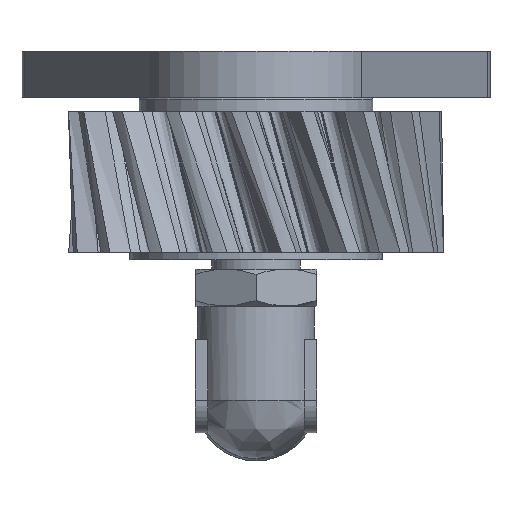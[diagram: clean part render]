
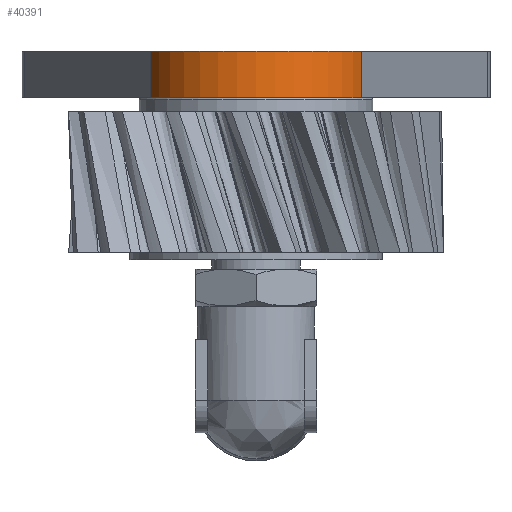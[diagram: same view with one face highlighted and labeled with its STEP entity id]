
A CAD part, front view. The second image highlights one B-rep face of the part: STEP entity #40391.
In plain terms, the highlighted cylindrical face has radius 12 mm (diameter 24 mm), a partial arc.
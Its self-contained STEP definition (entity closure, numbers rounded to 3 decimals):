
#1504 = CARTESIAN_POINT ( 'NONE',  ( 11.255, 7.837, 5. ) ) ;
#3376 = DIRECTION ( 'NONE',  ( 1., 0., 0. ) ) ;
#3908 = VERTEX_POINT ( 'NONE', #38230 ) ;
#4701 = EDGE_CURVE ( 'NONE', #54075, #27949, #7472, .T. ) ;
#7472 = CIRCLE ( 'NONE', #54466, 12. ) ;
#8814 = DIRECTION ( 'NONE',  ( 1., 0., 0. ) ) ;
#10522 = LINE ( 'NONE', #32728, #38012 ) ;
#11655 = ORIENTED_EDGE ( 'NONE', *, *, #17436, .F. ) ;
#11993 = CARTESIAN_POINT ( 'NONE',  ( 11.255, 7.837, 0. ) ) ;
#12648 = CARTESIAN_POINT ( 'NONE',  ( 0., 12., 5. ) ) ;
#15471 = CARTESIAN_POINT ( 'NONE',  ( -11.255, 7.837, 5. ) ) ;
#15681 = ORIENTED_EDGE ( 'NONE', *, *, #20637, .T. ) ;
#16073 = DIRECTION ( 'NONE',  ( 0., 0., -1. ) ) ;
#16270 = DIRECTION ( 'NONE',  ( 0., 0., 1. ) ) ;
#16973 = CARTESIAN_POINT ( 'NONE',  ( 0., 12., 5. ) ) ;
#17436 = EDGE_CURVE ( 'NONE', #27949, #22728, #18246, .T. ) ;
#18246 = LINE ( 'NONE', #55169, #37847 ) ;
#18727 = EDGE_LOOP ( 'NONE', ( #40551, #11655, #50447, #15681 ) ) ;
#19855 = AXIS2_PLACEMENT_3D ( 'NONE', #58039, #40653, #8814 ) ;
#20637 = EDGE_CURVE ( 'NONE', #54075, #3908, #10522, .T. ) ;
#22728 = VERTEX_POINT ( 'NONE', #11993 ) ;
#25972 = CYLINDRICAL_SURFACE ( 'NONE', #40509, 12. ) ;
#27838 = DIRECTION ( 'NONE',  ( 0., 0., -1. ) ) ;
#27949 = VERTEX_POINT ( 'NONE', #1504 ) ;
#32728 = CARTESIAN_POINT ( 'NONE',  ( -11.255, 7.837, 5. ) ) ;
#33291 = CIRCLE ( 'NONE', #19855, 12. ) ;
#37847 = VECTOR ( 'NONE', #27838, 1000. ) ;
#38012 = VECTOR ( 'NONE', #51080, 1000. ) ;
#38230 = CARTESIAN_POINT ( 'NONE',  ( -11.255, 7.837, 0. ) ) ;
#39818 = FACE_OUTER_BOUND ( 'NONE', #18727, .T. ) ;
#40391 = ADVANCED_FACE ( 'NONE', ( #39818 ), #25972, .T. ) ;
#40509 = AXIS2_PLACEMENT_3D ( 'NONE', #16973, #16073, #57801 ) ;
#40551 = ORIENTED_EDGE ( 'NONE', *, *, #58603, .T. ) ;
#40653 = DIRECTION ( 'NONE',  ( 0., 0., 1. ) ) ;
#50447 = ORIENTED_EDGE ( 'NONE', *, *, #4701, .F. ) ;
#51080 = DIRECTION ( 'NONE',  ( 0., 0., -1. ) ) ;
#54075 = VERTEX_POINT ( 'NONE', #15471 ) ;
#54466 = AXIS2_PLACEMENT_3D ( 'NONE', #12648, #16270, #3376 ) ;
#55169 = CARTESIAN_POINT ( 'NONE',  ( 11.255, 7.837, 5. ) ) ;
#57801 = DIRECTION ( 'NONE',  ( -1., 0., 0. ) ) ;
#58039 = CARTESIAN_POINT ( 'NONE',  ( 0., 12., 0. ) ) ;
#58603 = EDGE_CURVE ( 'NONE', #3908, #22728, #33291, .T. ) ;
